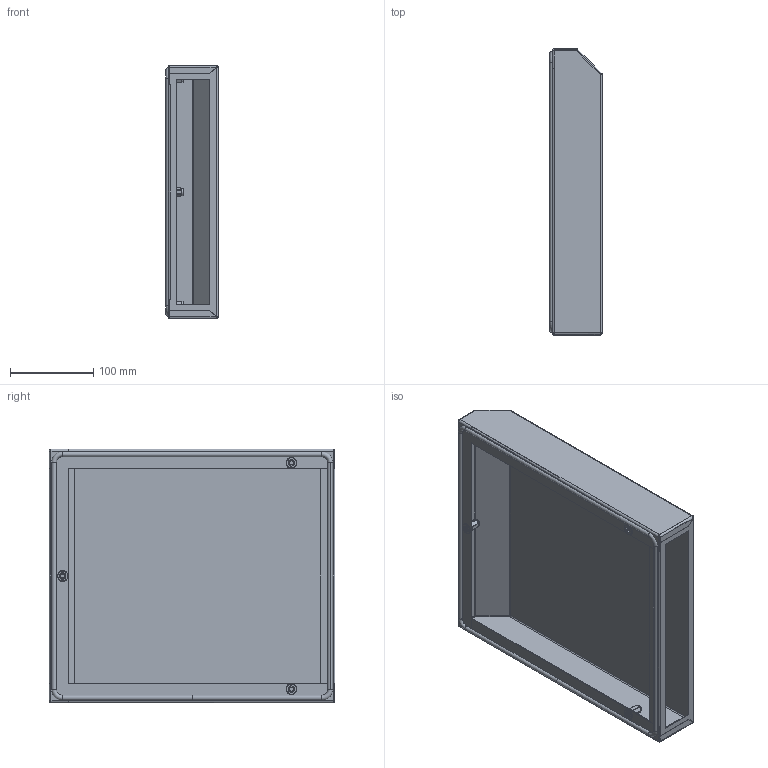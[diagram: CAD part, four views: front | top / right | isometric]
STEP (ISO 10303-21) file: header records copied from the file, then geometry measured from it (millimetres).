
FILE_DESCRIPTION (( 'STEP AP203' ), '1' );
FILE_NAME ('R 15 FA S 01.000 ﾑﾁ ﾊ鮻 鈞隆 蓁 粢炅齏.STEP', '2022-04-12T12:05:47', ( '' ), ( '' ), 'SwSTEP 2.0', 'SolidWorks 2018', '' );
FILE_SCHEMA (( 'CONFIG_CONTROL_DESIGN' ));
Length unit declared in the file: millimetre
Products named in the file (4): R 15 FA S 01.000 ﾑﾁ ﾊ鮻 鈞隆 蓁 粢炅齏; 逄鋋襡樇鳺 鼨錒膰膼碭嬅R 15 FA S; Çàêëåïêà íåðæ. âûòÿæíàÿ ðåçüáîâàÿ øåñòèãðàííàÿ çàêðûòàÿ Ì6_1,4; R 12 FA S 00.001 ﾊ鮻 鈞隆 蓁 粢炅齏_R 15 FA S 00.001 EPLAN
Assembly tree (5 placements, depth 2):
  R 15 FA S 01.000 ﾑﾁ ﾊ鮻 鈞隆 蓁 粢炅齏
    R 12 FA S 00.001 ﾊ鮻 鈞隆 蓁 粢炅齏_R 15 FA S 00.001 EPLAN
    逄鋋襡樇鳺 鼨錒膰膼碭嬅R 15 FA S
    Çàêëåïêà íåðæ. âûòÿæíàÿ ðåçüáîâàÿ øåñòèãðàííàÿ çàêðûòàÿ Ì6_1,4  x3
Bounding box: 63.12 x 343.92 x 305 mm (x, y, z)
Volume: 245928.6 mm3; surface area: 399171.3 mm2
Topology: 5 solids, 5 shells, 467 faces, 1073 edges, 622 vertices
Faces by surface type: plane 149, bspline 116, cylinder 114, torus 52, sphere 24, cone 12
Entity records: 9582 total; most frequent: CARTESIAN_POINT 3592, ORIENTED_EDGE 1178, DIRECTION 1110, EDGE_CURVE 589, AXIS2_PLACEMENT_3D 398, VERTEX_POINT 342, LINE 314, VECTOR 314
